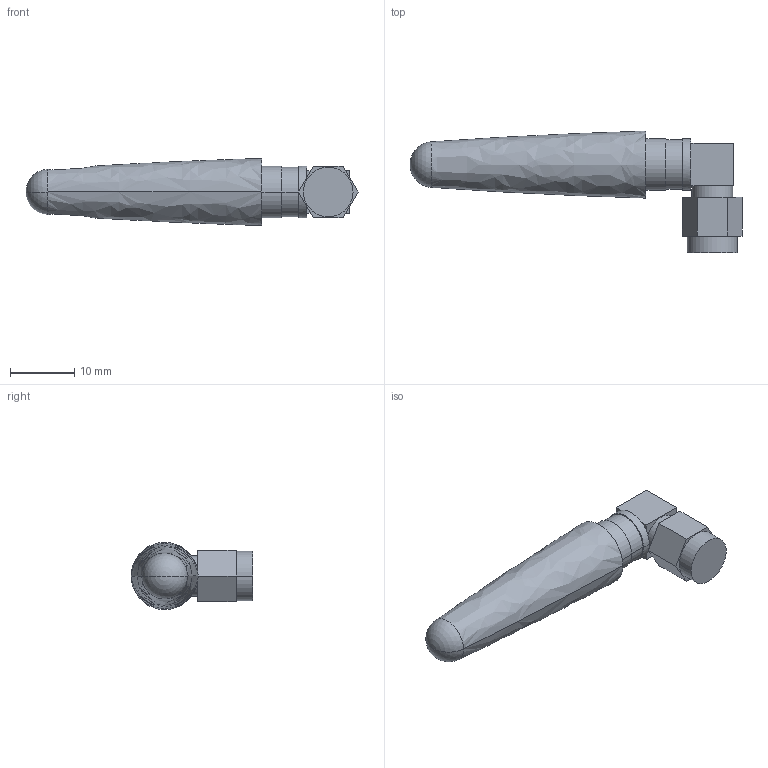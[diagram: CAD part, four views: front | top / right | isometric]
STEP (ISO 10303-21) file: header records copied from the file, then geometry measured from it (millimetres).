
FILE_DESCRIPTION((''),'2;1');
FILE_NAME('1023-2','2018-10-25T',('Administrator'),(''),'PRO/ENGINEER BY PARAMETRIC TECHNOLOGY CORPORATION, 2001280','PRO/ENGINEER BY PARAMETRIC TECHNOLOGY CORPORATION, 2001280','');
FILE_SCHEMA(('CONFIG_CONTROL_DESIGN'));
Length unit declared in the file: millimetre
Products named in the file (1): 1023-2
Bounding box: 51.52 x 18.9 x 10.4 mm (x, y, z)
Volume: 3358.9 mm3; surface area: 1771.4 mm2
Topology: 1 solids, 1 shells, 39 faces, 86 edges, 53 vertices
Faces by surface type: plane 25, cylinder 10, bspline 2, sphere 2
Entity records: 1146 total; most frequent: CARTESIAN_POINT 230, DIRECTION 194, ORIENTED_EDGE 168, EDGE_CURVE 84, AXIS2_PLACEMENT_3D 73, VERTEX_POINT 53, VECTOR 48, LINE 48
